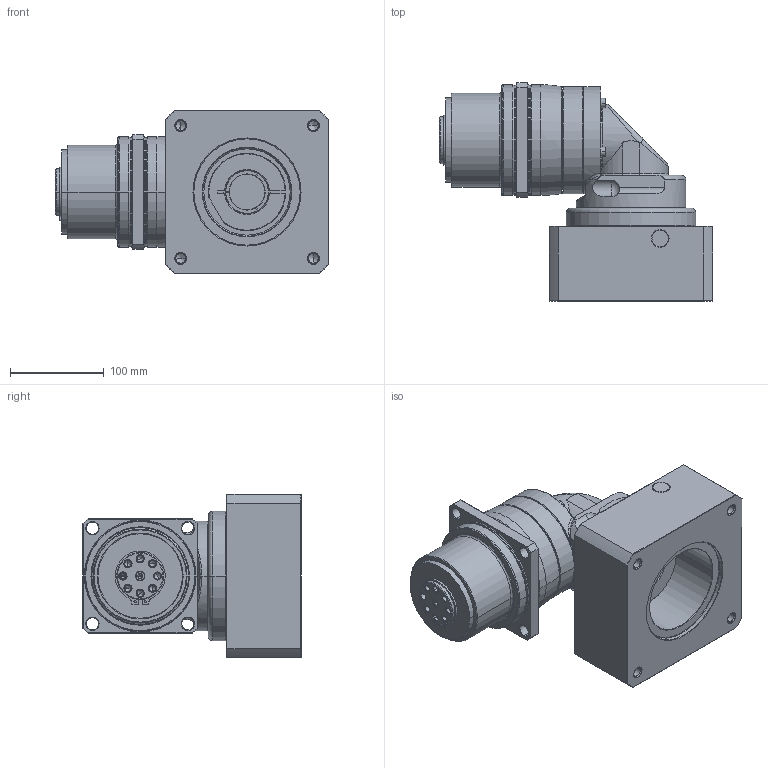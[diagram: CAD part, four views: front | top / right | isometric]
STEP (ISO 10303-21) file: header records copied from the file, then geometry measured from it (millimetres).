
FILE_DESCRIPTION((''),'2;1');
FILE_NAME('PLR120_2ST_38-P0411900101_ASM','2016-06-29T',('d00435'),(''),'PRO/ENGINEER BY PARAMETRIC TECHNOLOGY CORPORATION, 2008410','PRO/ENGINEER BY PARAMETRIC TECHNOLOGY CORPORATION, 2008410','');
FILE_SCHEMA(('CONFIG_CONTROL_DESIGN'));
Length unit declared in the file: millimetre
Products named in the file (11): P0272400001; P0366400001; 22802000029; P1356400001; P1349400001; P1017410001; P1350400501; P0411900101; P0503900010; P0713400501; PLR120_2ST_38-P0411900101_ASM
Assembly tree (10 placements, depth 2):
  PLR120_2ST_38-P0411900101_ASM
    P0272400001
    P0366400001
    22802000029
    P1356400001
    P1349400001
    P1017410001
    P1350400501
    P0411900101
    P0503900010
    P0713400501
Bounding box: 291.3 x 232.5 x 174 mm (x, y, z)
Volume: 3997995.7 mm3; surface area: 478505.5 mm2
Topology: 11 solids, 32 shells, 655 faces, 1543 edges, 925 vertices
Faces by surface type: cylinder 221, cone 188, plane 128, torus 86, bspline 30, sphere 2
Entity records: 21870 total; most frequent: CARTESIAN_POINT 6663, DIRECTION 3386, ORIENTED_EDGE 2906, EDGE_CURVE 1495, AXIS2_PLACEMENT_3D 1438, VERTEX_POINT 925, CIRCLE 782, EDGE_LOOP 750
